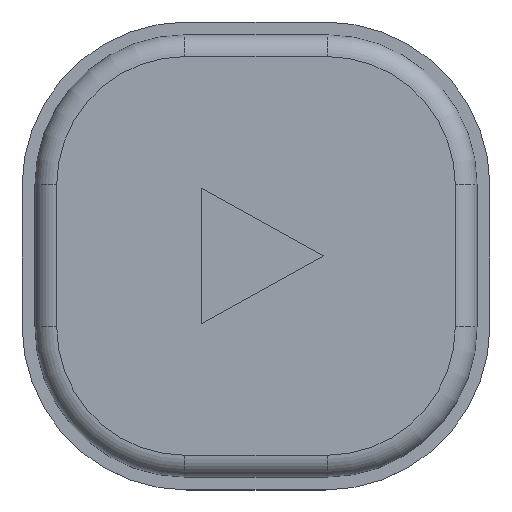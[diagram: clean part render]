
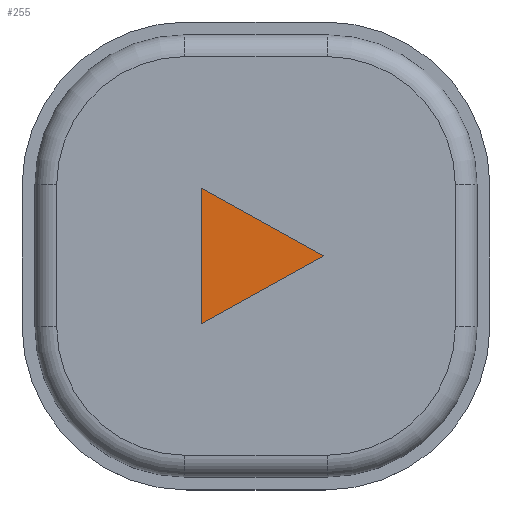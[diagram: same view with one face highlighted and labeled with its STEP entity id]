
A CAD part, top view. The second image highlights one B-rep face of the part: STEP entity #255.
In plain terms, the highlighted planar face has unit normal (0, 0, 1).
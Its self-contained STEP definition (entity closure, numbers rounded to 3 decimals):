
#32 = PLANE('',#33);
#33 = AXIS2_PLACEMENT_3D('',#34,#35,#36);
#34 = CARTESIAN_POINT('',(-3.4,-51.2,0.6));
#35 = DIRECTION('',(-1.,0.,0.));
#36 = DIRECTION('',(0.,1.,0.));
#57 = VERTEX_POINT('',#58);
#58 = CARTESIAN_POINT('',(-3.4,-51.2,0.18));
#72 = PLANE('',#73);
#73 = AXIS2_PLACEMENT_3D('',#74,#75,#76);
#74 = CARTESIAN_POINT('',(4.2,-47.,0.6));
#75 = DIRECTION('',(0.484,-0.875,0.));
#76 = DIRECTION('',(-0.875,-0.484,0.)
  );
#84 = EDGE_CURVE('',#57,#85,#87,.T.);
#85 = VERTEX_POINT('',#86);
#86 = CARTESIAN_POINT('',(-3.4,-42.8,0.18));
#87 = SURFACE_CURVE('',#88,(#92,#99),.PCURVE_S1.);
#88 = LINE('',#89,#90);
#89 = CARTESIAN_POINT('',(-3.4,-51.2,0.18));
#90 = VECTOR('',#91,1.);
#91 = DIRECTION('',(0.,1.,0.));
#92 = PCURVE('',#32,#93);
#93 = DEFINITIONAL_REPRESENTATION('',(#94),#98);
#94 = LINE('',#95,#96);
#95 = CARTESIAN_POINT('',(0.,0.42));
#96 = VECTOR('',#97,1.);
#97 = DIRECTION('',(1.,0.));
#98 = ( GEOMETRIC_REPRESENTATION_CONTEXT(2) 
PARAMETRIC_REPRESENTATION_CONTEXT() REPRESENTATION_CONTEXT('2D SPACE',''
  ) );
#99 = PCURVE('',#100,#105);
#100 = PLANE('',#101);
#101 = AXIS2_PLACEMENT_3D('',#102,#103,#104);
#102 = CARTESIAN_POINT('',(0.4,-47.,0.18));
#103 = DIRECTION('',(0.,0.,-1.));
#104 = DIRECTION('',(-1.,0.,0.));
#105 = DEFINITIONAL_REPRESENTATION('',(#106),#110);
#106 = LINE('',#107,#108);
#107 = CARTESIAN_POINT('',(3.8,-4.2));
#108 = VECTOR('',#109,1.);
#109 = DIRECTION('',(0.,1.));
#110 = ( GEOMETRIC_REPRESENTATION_CONTEXT(2) 
PARAMETRIC_REPRESENTATION_CONTEXT() REPRESENTATION_CONTEXT('2D SPACE',''
  ) );
#126 = PLANE('',#127);
#127 = AXIS2_PLACEMENT_3D('',#128,#129,#130);
#128 = CARTESIAN_POINT('',(-3.4,-42.8,0.6));
#129 = DIRECTION('',(0.484,0.875,0.));
#130 = DIRECTION('',(0.875,-0.484,0.));
#165 = EDGE_CURVE('',#85,#166,#168,.T.);
#166 = VERTEX_POINT('',#167);
#167 = CARTESIAN_POINT('',(4.2,-47.,0.18));
#168 = SURFACE_CURVE('',#169,(#173,#180),.PCURVE_S1.);
#169 = LINE('',#170,#171);
#170 = CARTESIAN_POINT('',(-3.4,-42.8,0.18));
#171 = VECTOR('',#172,1.);
#172 = DIRECTION('',(0.875,-0.484,0.));
#173 = PCURVE('',#126,#174);
#174 = DEFINITIONAL_REPRESENTATION('',(#175),#179);
#175 = LINE('',#176,#177);
#176 = CARTESIAN_POINT('',(0.,0.42));
#177 = VECTOR('',#178,1.);
#178 = DIRECTION('',(1.,0.));
#179 = ( GEOMETRIC_REPRESENTATION_CONTEXT(2) 
PARAMETRIC_REPRESENTATION_CONTEXT() REPRESENTATION_CONTEXT('2D SPACE',''
  ) );
#180 = PCURVE('',#100,#181);
#181 = DEFINITIONAL_REPRESENTATION('',(#182),#186);
#182 = LINE('',#183,#184);
#183 = CARTESIAN_POINT('',(3.8,4.2));
#184 = VECTOR('',#185,1.);
#185 = DIRECTION('',(-0.875,-0.484));
#186 = ( GEOMETRIC_REPRESENTATION_CONTEXT(2) 
PARAMETRIC_REPRESENTATION_CONTEXT() REPRESENTATION_CONTEXT('2D SPACE',''
  ) );
#234 = EDGE_CURVE('',#166,#57,#235,.T.);
#235 = SURFACE_CURVE('',#236,(#240,#247),.PCURVE_S1.);
#236 = LINE('',#237,#238);
#237 = CARTESIAN_POINT('',(4.2,-47.,0.18));
#238 = VECTOR('',#239,1.);
#239 = DIRECTION('',(-0.875,-0.484,0.)
  );
#240 = PCURVE('',#72,#241);
#241 = DEFINITIONAL_REPRESENTATION('',(#242),#246);
#242 = LINE('',#243,#244);
#243 = CARTESIAN_POINT('',(0.,0.42));
#244 = VECTOR('',#245,1.);
#245 = DIRECTION('',(1.,0.));
#246 = ( GEOMETRIC_REPRESENTATION_CONTEXT(2) 
PARAMETRIC_REPRESENTATION_CONTEXT() REPRESENTATION_CONTEXT('2D SPACE',''
  ) );
#247 = PCURVE('',#100,#248);
#248 = DEFINITIONAL_REPRESENTATION('',(#249),#253);
#249 = LINE('',#250,#251);
#250 = CARTESIAN_POINT('',(-3.8,0.));
#251 = VECTOR('',#252,1.);
#252 = DIRECTION('',(0.875,-0.484));
#253 = ( GEOMETRIC_REPRESENTATION_CONTEXT(2) 
PARAMETRIC_REPRESENTATION_CONTEXT() REPRESENTATION_CONTEXT('2D SPACE',''
  ) );
#255 = ADVANCED_FACE('',(#256),#100,.F.);
#256 = FACE_BOUND('',#257,.T.);
#257 = EDGE_LOOP('',(#258,#259,#260));
#258 = ORIENTED_EDGE('',*,*,#234,.F.);
#259 = ORIENTED_EDGE('',*,*,#165,.F.);
#260 = ORIENTED_EDGE('',*,*,#84,.F.);
